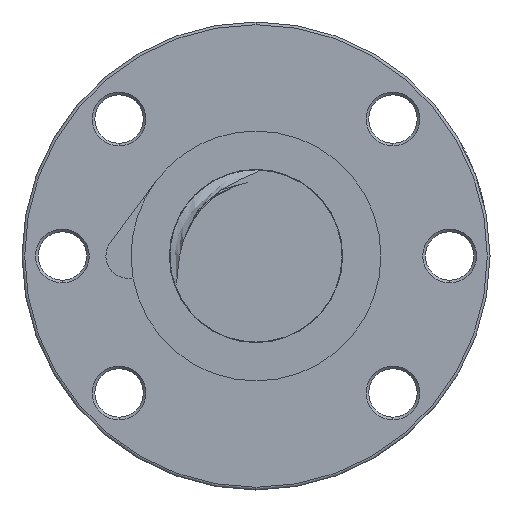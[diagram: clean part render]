
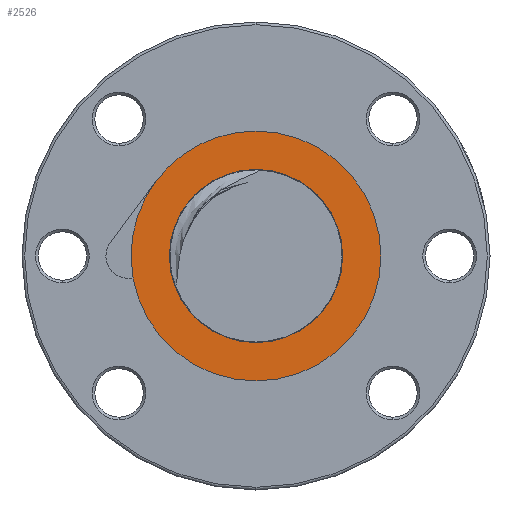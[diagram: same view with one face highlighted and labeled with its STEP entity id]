
A CAD part, left-side view. The second image highlights one B-rep face of the part: STEP entity #2526.
In plain terms, the highlighted planar face has unit normal (-1, 0, 0).
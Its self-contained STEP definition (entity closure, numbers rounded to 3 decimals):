
#1611 = EDGE_CURVE ( 'NONE', #1901, #1612, #3888, .T. ) ;
#1612 = VERTEX_POINT ( 'NONE', #3883 ) ;
#1669 = VERTEX_POINT ( 'NONE', #4122 ) ;
#1671 = EDGE_CURVE ( 'NONE', #1669, #1672, #4121, .T. ) ;
#1672 = VERTEX_POINT ( 'NONE', #4116 ) ;
#1768 = EDGE_CURVE ( 'NONE', #1769, #1900, #4467, .T. ) ;
#1769 = VERTEX_POINT ( 'NONE', #4463 ) ;
#1899 = EDGE_CURVE ( 'NONE', #1900, #1901, #4691, .T. ) ;
#1900 = VERTEX_POINT ( 'NONE', #4686 ) ;
#1901 = VERTEX_POINT ( 'NONE', #4685 ) ;
#2269 = ORIENTED_EDGE ( 'NONE', *, *, #2525, .F. ) ;
#2270 = ORIENTED_EDGE ( 'NONE', *, *, #1671, .F. ) ;
#2525 = EDGE_CURVE ( 'NONE', #1672, #1669, #3611, .T. ) ;
#2526 = ADVANCED_FACE ( 'NONE', ( #3561, #3600 ), #3776, .T. ) ;
#2527 = EDGE_LOOP ( 'NONE', ( #2528, #2530, #2532, #2533 ) ) ;
#2528 = ORIENTED_EDGE ( 'NONE', *, *, #2529, .T. ) ;
#2529 = EDGE_CURVE ( 'NONE', #1612, #1769, #3695, .T. ) ;
#2530 = ORIENTED_EDGE ( 'NONE', *, *, #1768, .T. ) ;
#2532 = ORIENTED_EDGE ( 'NONE', *, *, #1899, .T. ) ;
#2533 = ORIENTED_EDGE ( 'NONE', *, *, #1611, .T. ) ;
#2534 = EDGE_LOOP ( 'NONE', ( #2269, #2270 ) ) ;
#3561 = FACE_OUTER_BOUND ( 'NONE', #2527, .T. ) ;
#3600 = FACE_BOUND ( 'NONE', #2534, .T. ) ;
#3602 = DIRECTION ( 'NONE',  ( 0., 0., 1. ) ) ;
#3606 = DIRECTION ( 'NONE',  ( -1., 0., 0. ) ) ;
#3607 = CARTESIAN_POINT ( 'NONE',  ( -177.8, 0., 0. ) ) ;
#3609 = AXIS2_PLACEMENT_3D ( 'NONE', #3607, #3606, #3602 ) ;
#3611 = CIRCLE ( 'NONE', #3609, 16.1 ) ;
#3614 = CARTESIAN_POINT ( 'NONE',  ( -177.8, 0., 0. ) ) ;
#3616 = DIRECTION ( 'NONE',  ( 0., 0., 1. ) ) ;
#3617 = DIRECTION ( 'NONE',  ( -1., 0., 0. ) ) ;
#3618 = AXIS2_PLACEMENT_3D ( 'NONE', #3774, #3617, #3616 ) ;
#3688 = DIRECTION ( 'NONE',  ( 0., 0., 1. ) ) ;
#3691 = DIRECTION ( 'NONE',  ( -1., 0., 0. ) ) ;
#3693 = AXIS2_PLACEMENT_3D ( 'NONE', #3614, #3691, #3688 ) ;
#3695 = CIRCLE ( 'NONE', #3693, 23.225 ) ;
#3774 = CARTESIAN_POINT ( 'NONE',  ( -177.8, 0., 16.1 ) ) ;
#3776 = PLANE ( 'NONE',  #3618 ) ;
#3883 = CARTESIAN_POINT ( 'NONE',  ( -177.8, 18.649, 13.843 ) ) ;
#3884 = DIRECTION ( 'NONE',  ( 0., 0., 1. ) ) ;
#3885 = DIRECTION ( 'NONE',  ( -1., 0., 0. ) ) ;
#3886 = CARTESIAN_POINT ( 'NONE',  ( -177.8, 0., 0. ) ) ;
#3887 = AXIS2_PLACEMENT_3D ( 'NONE', #3886, #3885, #3884 ) ;
#3888 = CIRCLE ( 'NONE', #3887, 23.225 ) ;
#4116 = CARTESIAN_POINT ( 'NONE',  ( -177.8, 0., 16.1 ) ) ;
#4117 = DIRECTION ( 'NONE',  ( 0., 0., 1. ) ) ;
#4118 = DIRECTION ( 'NONE',  ( -1., 0., 0. ) ) ;
#4119 = CARTESIAN_POINT ( 'NONE',  ( -177.8, 0., 0. ) ) ;
#4120 = AXIS2_PLACEMENT_3D ( 'NONE', #4119, #4118, #4117 ) ;
#4121 = CIRCLE ( 'NONE', #4120, 16.1 ) ;
#4122 = CARTESIAN_POINT ( 'NONE',  ( -177.8, 0., -16.1 ) ) ;
#4463 = CARTESIAN_POINT ( 'NONE',  ( -177.8, 22.863, -4.085 ) ) ;
#4464 = DIRECTION ( 'NONE',  ( 0., 0., 1. ) ) ;
#4465 = DIRECTION ( 'NONE',  ( -1., 0., 0. ) ) ;
#4466 = AXIS2_PLACEMENT_3D ( 'NONE', #4471, #4465, #4464 ) ;
#4467 = CIRCLE ( 'NONE', #4466, 23.225 ) ;
#4471 = CARTESIAN_POINT ( 'NONE',  ( -177.8, 0., 0. ) ) ;
#4685 = CARTESIAN_POINT ( 'NONE',  ( -177.8, 0., 23.225 ) ) ;
#4686 = CARTESIAN_POINT ( 'NONE',  ( -177.8, 0., -23.225 ) ) ;
#4687 = DIRECTION ( 'NONE',  ( 0., 0., 1. ) ) ;
#4688 = DIRECTION ( 'NONE',  ( -1., 0., 0. ) ) ;
#4689 = CARTESIAN_POINT ( 'NONE',  ( -177.8, 0., 0. ) ) ;
#4690 = AXIS2_PLACEMENT_3D ( 'NONE', #4689, #4688, #4687 ) ;
#4691 = CIRCLE ( 'NONE', #4690, 23.225 ) ;
